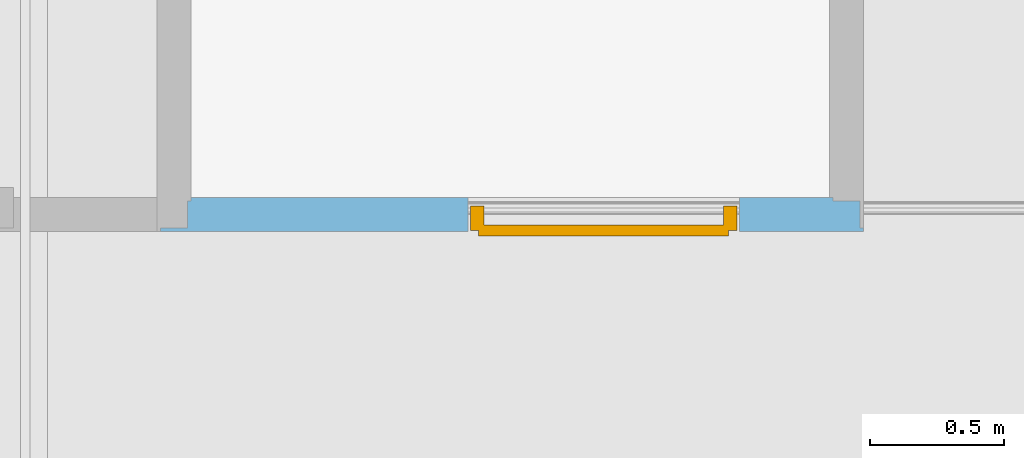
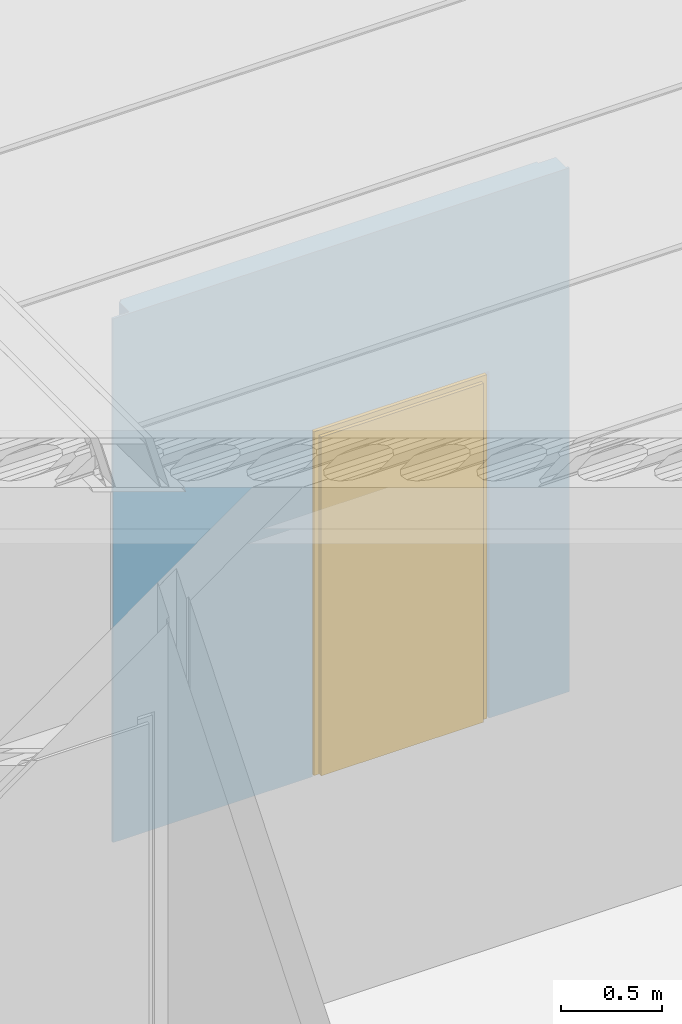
# One storey, part 35 of 45: 1 door, 1 opening, plus 1 element that does not belong to this part.
"""IFC2X3 building model written with IfcOpenShell, lengths in millimetres."""

from ifc_helpers import new_model, entity, si_unit, converted_unit, frame, frame_2d, origin, origin_with_axes, place, context, subcontext, project, spatial, polyline, rectangle, outline, extrude, faceted_brep, material, layer, layer_set, layer_usage, type_object, element, fill, save


model = new_model("IFC2X3")

# Units and contexts
model_context = context("Model", 3, precision=1e-05, world=origin())
plan_context = context("Plan", 3, precision=1e-05, world=origin())
body_context = subcontext(model_context, "Body", "Model", "MODEL_VIEW")
ifc_project = project(units=[si_unit("LENGTHUNIT", "METRE", prefix="MILLI"), converted_unit("PLANEANGLEUNIT", "DEGREE", entity("IfcPlaneAngleMeasure", 0.0174532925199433), si_unit("PLANEANGLEUNIT", "RADIAN"), dimensions=[0, 0, 0, 0, 0, 0, 0]), si_unit("AREAUNIT", "SQUARE_METRE"), si_unit("VOLUMEUNIT", "CUBIC_METRE")], contexts=[model_context, plan_context])

# Building, storey
building_placement = place(None, origin())
building = spatial("IfcBuilding", under=ifc_project, at=building_placement, Name="HEKF Administrasjonbygg", CompositionType="ELEMENT")
storey_placement = place(building_placement, frame((0.0, 0.0, 6500.0), z_axis=(0.0, 0.0, 1.0), x_axis=(1.0, 0.0, 0.0)))
storey = spatial("IfcBuildingStorey", under=building, at=storey_placement, Name="Plan 1", CompositionType="ELEMENT", Elevation=6500.0)

# Wall, opening, door
ifc_material_1 = material(Name="gips")
ifc_layer_1 = layer(ifc_material_1, 13.00000000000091)
ifc_material_2 = material(Name="riegel stål 100")
ifc_layer_2 = layer(ifc_material_2, 100.0)
ifc_material_3 = material(Name="gips")
ifc_layer_3 = layer(ifc_material_3, 13.0)
ifc_layer_set = layer_set([ifc_layer_1, ifc_layer_2, ifc_layer_3])
ifc_layer_usage = layer_usage(ifc_layer_set, "AXIS2", "POSITIVE", 0.0)
wall_placement = place(storey_placement, frame((18350.0, -3687.0, 0.0), z_axis=(0.0, 0.0, 1.0), x_axis=(1.0, -6.397200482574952e-17, 0.0)))
wall = element("IfcWallStandardCase", 1, at=wall_placement, inside=storey, material=ifc_layer_usage, context=body_context, shape_type="SweptSolid", body=[
    extrude(outline(polyline([(4495.536806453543, 12.99999999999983), (4495.536806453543, -1.671588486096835e-13), (7108.536806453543, 0.0), (7108.536806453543, 13.0), (7095.536806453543, 13.0), (7095.536806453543, 113.0), (6995.536806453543, 113.0), (6995.536806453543, 126.0), (4608.536806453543, 125.9999999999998), (4608.536806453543, 112.9999999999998), (4595.536806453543, 112.9999999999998), (4595.536806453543, 12.99999999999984), (4495.536806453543, 12.99999999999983)])), origin_with_axes(), (0.0, 0.0, 1.0), 3170.0),
])
opening_placement = place(wall_placement, frame((5637.834868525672, -4.547473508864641e-13, 0.0), z_axis=(0.0, 1.0, 0.0), x_axis=(0.0, 0.0, 1.0)))
opening = element("IfcOpeningElement", 2, at=opening_placement, cuts=wall, Name="D025", ObjectType="Opening", context=body_context, shape_type="SweptSolid", body=[
    extrude(rectangle(XDim=2100.0, YDim=1010.0, at=frame_2d((1050.0, 505.0), x_axis=(1.0, 0.0))), origin_with_axes(), (0.0, 0.0, 1.0), 125.9999999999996),
])
ifc_material_4 = material()
door_style = type_object("IfcDoorStyle", Name="D024", ConstructionType="NOTDEFINED", OperationType="USERDEFINED", ParameterTakesPrecedence=False, Sizeable=False)
door_placement = place(opening_placement, frame((0.0, 0.0, 0.0), z_axis=(1.0, 0.0, 0.0), x_axis=(0.0, 1.0, 0.0)))
door = element("IfcDoor", 3, at=door_placement, inside=storey, type_object=door_style, material=ifc_material_4, Name="D024", OverallHeight=2100.0, OverallWidth=1010.0, context=body_context, shape_type="Brep", body=[
    faceted_brep([(9.999999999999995, 3.999999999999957, 2080.0), (59.99999999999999, 3.999999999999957, 2080.0), (59.99999999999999, 4.000000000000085, -2.816687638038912e-15), (9.999999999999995, 4.000000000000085, -2.816687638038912e-15), (10.0, 95.99999999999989, 2.816687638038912e-15), (60.0, 95.99999999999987, 2.816687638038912e-15), (60.0, 95.99999999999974, 2080.0), (10.0, 95.99999999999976, 2080.0), (9.999999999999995, 4.000000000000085, -2.816687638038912e-15), (10.0, 95.99999999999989, 2.816687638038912e-15), (10.0, 95.99999999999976, 2080.0), (9.999999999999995, 3.999999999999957, 2080.0), (59.99999999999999, 4.000000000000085, -2.816687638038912e-15), (60.0, 95.99999999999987, 2.816687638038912e-15), (10.0, 95.99999999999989, 2.816687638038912e-15), (9.999999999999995, 4.000000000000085, -2.816687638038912e-15), (59.99999999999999, 3.999999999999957, 2080.0), (60.0, 95.99999999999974, 2080.0), (60.0, 95.99999999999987, 2.816687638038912e-15), (59.99999999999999, 4.000000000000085, -2.816687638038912e-15), (9.999999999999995, 3.999999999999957, 2080.0), (10.0, 95.99999999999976, 2080.0), (60.0, 95.99999999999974, 2080.0), (59.99999999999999, 3.999999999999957, 2080.0)], [[[0, 1, 2, 3]], [[4, 5, 6, 7]], [[8, 9, 10, 11]], [[12, 13, 14, 15]], [[16, 17, 18, 19]], [[20, 21, 22, 23]]], orient=[[False], [False], [False], [False], [False], [False]]),
    faceted_brep([(950.0, 3.999999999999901, 2080.0), (1000.0, 3.999999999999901, 2080.0), (1000.0, 4.000000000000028, -2.816687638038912e-15), (950.0, 4.000000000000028, -2.816687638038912e-15), (950.0, 95.99999999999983, 2.816687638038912e-15), (1000.0, 95.99999999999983, 2.816687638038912e-15), (1000.0, 95.99999999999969, 2080.0), (950.0, 95.9999999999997, 2080.0), (950.0, 4.000000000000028, -2.816687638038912e-15), (950.0, 95.99999999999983, 2.816687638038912e-15), (950.0, 95.9999999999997, 2080.0), (950.0, 3.999999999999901, 2080.0), (1000.0, 4.000000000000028, -2.816687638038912e-15), (1000.0, 95.99999999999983, 2.816687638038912e-15), (950.0, 95.99999999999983, 2.816687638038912e-15), (950.0, 4.000000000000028, -2.816687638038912e-15), (1000.0, 3.999999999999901, 2080.0), (1000.0, 95.99999999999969, 2080.0), (1000.0, 95.99999999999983, 2.816687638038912e-15), (1000.0, 4.000000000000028, -2.816687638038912e-15), (950.0, 3.999999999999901, 2080.0), (950.0, 95.9999999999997, 2080.0), (1000.0, 95.99999999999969, 2080.0), (1000.0, 3.999999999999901, 2080.0)], [[[0, 1, 2, 3]], [[4, 5, 6, 7]], [[8, 9, 10, 11]], [[12, 13, 14, 15]], [[16, 17, 18, 19]], [[20, 21, 22, 23]]], orient=[[False], [False], [False], [False], [False], [False]]),
    faceted_brep([(59.99999999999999, 3.999999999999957, 2080.0), (949.9999999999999, 3.999999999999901, 2080.0), (949.9999999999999, 3.999999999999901, 2030.0), (59.99999999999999, 3.999999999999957, 2030.0), (60.0, 95.99999999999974, 2030.0), (949.9999999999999, 95.9999999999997, 2030.0), (949.9999999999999, 95.9999999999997, 2080.000000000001), (60.0, 95.99999999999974, 2080.000000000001), (59.99999999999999, 3.999999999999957, 2030.0), (60.0, 95.99999999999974, 2030.0), (60.0, 95.99999999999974, 2080.000000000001), (59.99999999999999, 3.999999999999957, 2080.0), (949.9999999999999, 3.999999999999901, 2030.0), (949.9999999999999, 95.9999999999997, 2030.0), (60.0, 95.99999999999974, 2030.0), (59.99999999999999, 3.999999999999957, 2030.0), (949.9999999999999, 3.999999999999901, 2080.0), (949.9999999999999, 95.9999999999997, 2080.000000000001), (949.9999999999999, 95.9999999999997, 2030.0), (949.9999999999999, 3.999999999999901, 2030.0), (59.99999999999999, 3.999999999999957, 2080.0), (60.0, 95.99999999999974, 2080.000000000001), (949.9999999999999, 95.9999999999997, 2080.000000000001), (949.9999999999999, 3.999999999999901, 2080.0)], [[[0, 1, 2, 3]], [[4, 5, 6, 7]], [[8, 9, 10, 11]], [[12, 13, 14, 15]], [[16, 17, 18, 19]], [[20, 21, 22, 23]]], orient=[[False], [False], [False], [False], [False], [False]]),
    faceted_brep([(40.0, -16.00000000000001, 2050.000000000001), (969.9999999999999, -16.00000000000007, 2050.000000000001), (969.9999999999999, -15.99999999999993, -4.041334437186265e-15), (40.0, -15.99999999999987, -4.041334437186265e-15), (40.0, 24.00000000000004, -1.592040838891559e-15), (969.9999999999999, 23.99999999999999, -1.592040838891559e-15), (969.9999999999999, 23.99999999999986, 2050.000000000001), (40.0, 23.99999999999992, 2050.000000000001), (40.0, -15.99999999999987, -4.041334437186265e-15), (40.0, 24.00000000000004, -1.592040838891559e-15), (40.0, 23.99999999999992, 2050.000000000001), (40.0, -16.00000000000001, 2050.000000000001), (969.9999999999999, -15.99999999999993, -4.041334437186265e-15), (969.9999999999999, 23.99999999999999, -1.592040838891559e-15), (40.0, 24.00000000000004, -1.592040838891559e-15), (40.0, -15.99999999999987, -4.041334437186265e-15), (969.9999999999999, -16.00000000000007, 2050.000000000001), (969.9999999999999, 23.99999999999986, 2050.000000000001), (969.9999999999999, 23.99999999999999, -1.592040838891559e-15), (969.9999999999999, -15.99999999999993, -4.041334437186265e-15), (40.0, -16.00000000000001, 2050.000000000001), (40.0, 23.99999999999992, 2050.000000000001), (969.9999999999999, 23.99999999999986, 2050.000000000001), (969.9999999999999, -16.00000000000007, 2050.000000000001)], [[[0, 1, 2, 3]], [[4, 5, 6, 7]], [[8, 9, 10, 11]], [[12, 13, 14, 15]], [[16, 17, 18, 19]], [[20, 21, 22, 23]]], orient=[[False], [False], [False], [False], [False], [False]]),
])
fill(opening, door)

save(model, "model.ifc")
